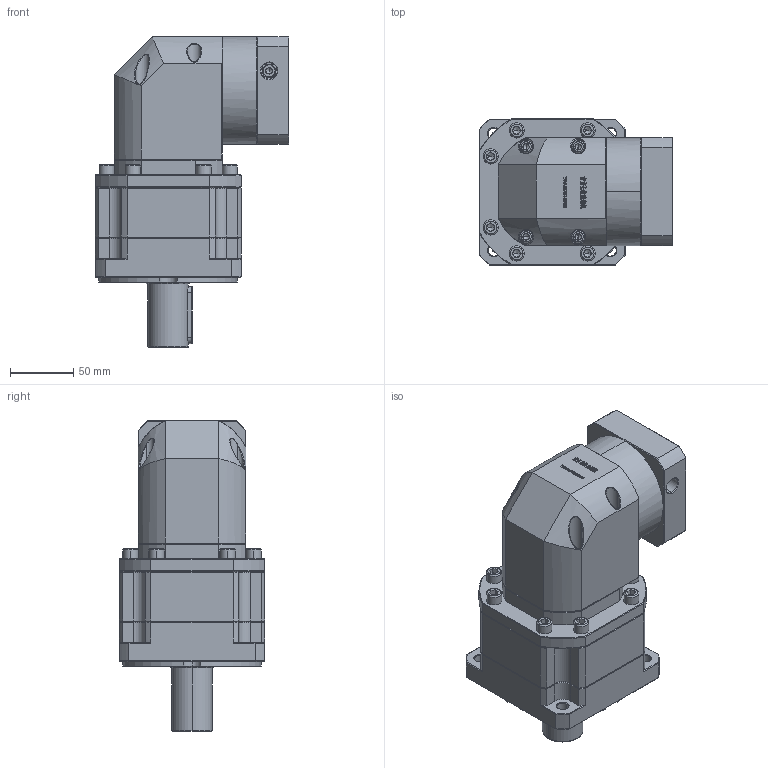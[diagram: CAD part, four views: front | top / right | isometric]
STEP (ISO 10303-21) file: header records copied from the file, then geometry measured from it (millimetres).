
FILE_DESCRIPTION (( 'STEP AP214' ), '1' );
FILE_NAME ('ZBR115A-D32-L2-12.7-73-69.5X69.5-M6.step', '2023-03-02T14:36:04', ( '' ), ( 'Microsoft' ), 'SwSTEP 2.0', 'SolidWorks 2016', '' );
FILE_SCHEMA (( 'AUTOMOTIVE_DESIGN' ));
Length unit declared in the file: millimetre
Products named in the file (1): ZBR115A-D32-L2-12.7-73-69.5X69.5-M6
Bounding box: 152.6 x 115 x 245 mm (x, y, z)
Volume: 1953007.8 mm3; surface area: 177621 mm2
Topology: 6 solids, 6 shells, 3196 faces, 8388 edges, 5343 vertices
Faces by surface type: plane 1701, bspline 633, cylinder 476, cone 372, torus 14
Entity records: 171097 total; most frequent: CARTESIAN_POINT 62336, ORIENTED_EDGE 16668, DIRECTION 12832, EDGE_CURVE 8334, VECTOR 5596, LINE 5596, VERTEX_POINT 5343, AXIS2_PLACEMENT_3D 3618
